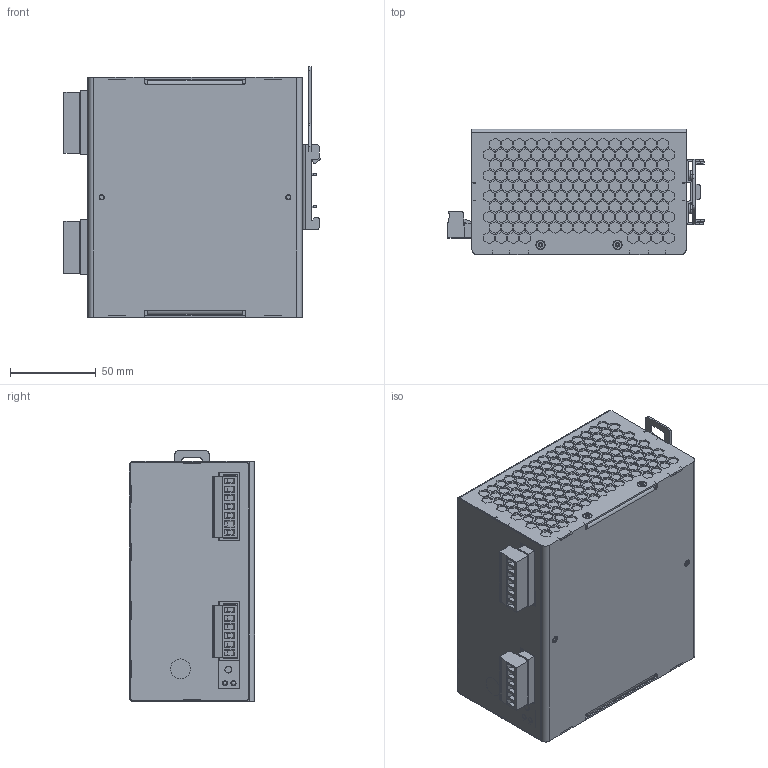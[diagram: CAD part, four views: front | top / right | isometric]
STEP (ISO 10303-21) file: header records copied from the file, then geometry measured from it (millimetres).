
FILE_DESCRIPTION (( 'STEP AP214' ), '1' );
FILE_NAME ('NPST480_-_NPSW480_3D_light.STEP', '2016-04-28T06:37:33', ( 'miky' ), ( 'Microsoft' ), 'SwSTEP 2.0', 'SolidWorks 2014', '' );
FILE_SCHEMA (( 'AUTOMOTIVE_DESIGN' ));
Length unit declared in the file: millimetre
Products named in the file (1): NPST480_-_NPSW480_3D_light
Bounding box: 149.53 x 73 x 146.2 mm (x, y, z)
Volume: 1283905.8 mm3; surface area: 112601.9 mm2
Topology: 1 solids, 12 shells, 3742 faces, 10064 edges, 6644 vertices
Faces by surface type: plane 3072, cylinder 555, cone 99, bspline 10, torus 4, sphere 2
Entity records: 160892 total; most frequent: CARTESIAN_POINT 24903, ORIENTED_EDGE 20116, DIRECTION 18649, EDGE_CURVE 10058, LINE 8305, VECTOR 8305, VERTEX_POINT 6640, AXIS2_PLACEMENT_3D 5172
